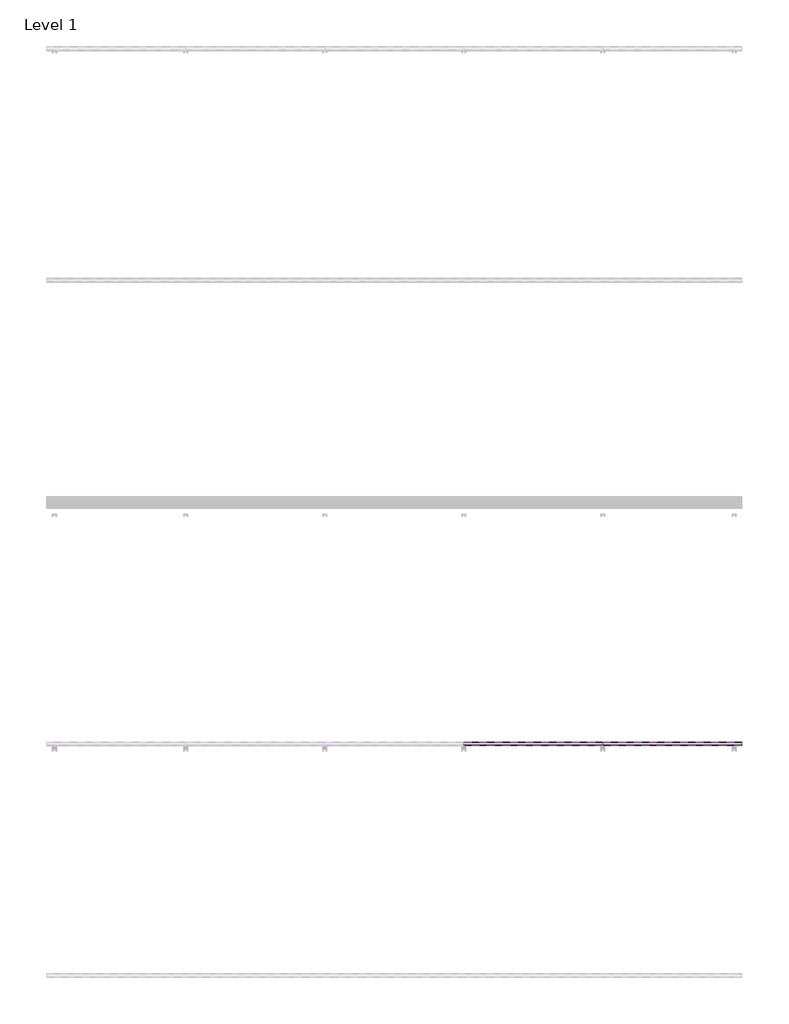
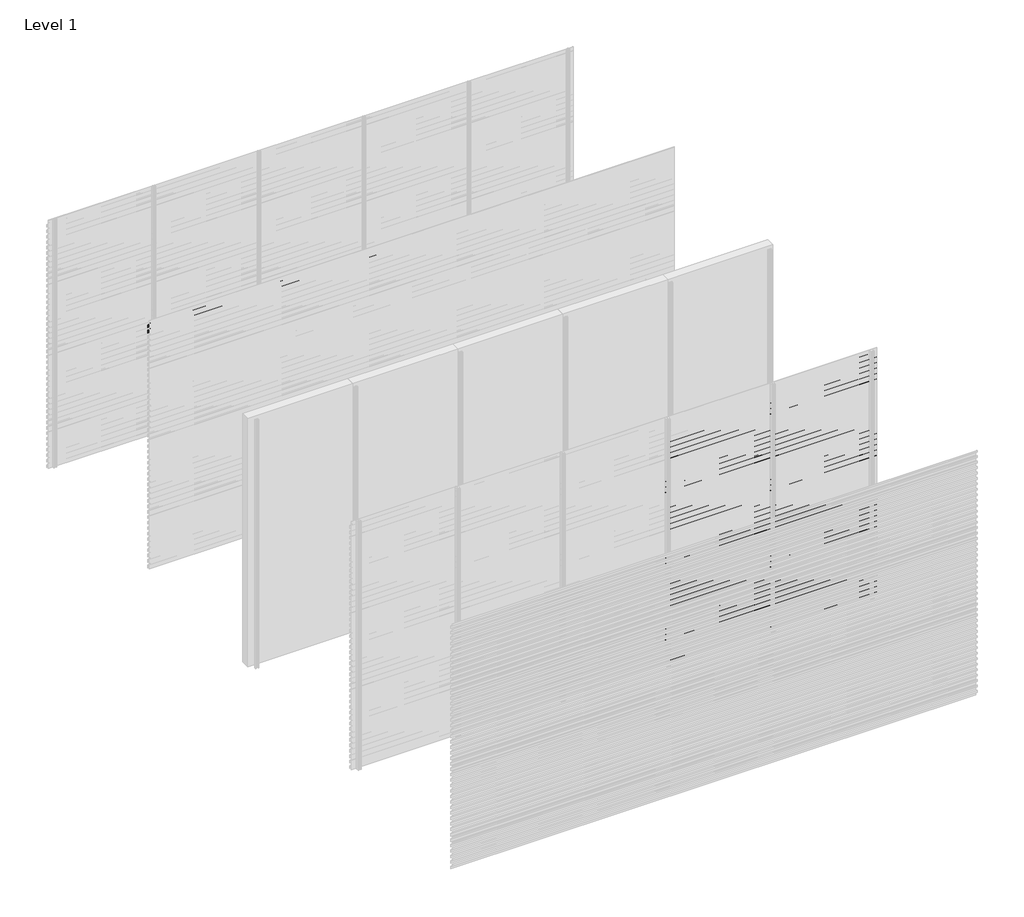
# One storey, part 27 of 33: 88 proxies.
"""IFC4 building model written with IfcOpenShell, lengths in millimetres."""

from ifc_helpers import new_model, si_unit, frame, origin, place, context, project, spatial, polyline, outline, extrude, element, save

model = new_model("IFC4")

# Units and contexts
model_context = context("Model", 3, world=origin())
ifc_project = project(units=[si_unit("LENGTHUNIT", "METRE", prefix="MILLI")], contexts=[model_context])

# Site, building, storey
site = spatial("IfcSite", under=ifc_project)
building = spatial("IfcBuilding", under=site)
storey = spatial("IfcBuildingStorey", under=building, Name="Level 1", Elevation=0.0)

# Proxies
placement = place(None, origin())
element("IfcBuildingElementProxy", 1, Name="Wall Sweeps", at=placement, inside=storey, context=model_context, shape_type="SweptSolid", body=[
    extrude(outline(polyline([(-7967.0, 2930.0), (-7967.0, 2897.0), (-7968.25, 2897.7216933), (-7968.25, 2929.2872415), (-7998.0, 2950.0588647), (-7998.0, 2970.0), (-7996.75, 2970.0), (-7996.75, 2950.7716232), (-7967.0, 2930.0)])), frame((0.0, 0.0, 0.0), z_axis=(1.0, 0.0, 0.0), x_axis=(0.0, 1.0, 0.0)), (0.0, 0.0, 1.0), 6000.0),
])
element("IfcBuildingElementProxy", 2, Name="Wall Sweeps", at=placement, inside=storey, context=model_context, shape_type="SweptSolid", body=[
    extrude(outline(polyline([(-7967.0, 2864.0), (-7967.0, 2831.0), (-7968.25, 2831.7216933), (-7968.25, 2863.2872415), (-7998.0, 2884.0588647), (-7998.0, 2904.0), (-7996.75, 2904.0), (-7996.75, 2884.7716232), (-7967.0, 2864.0)])), frame((0.0, 0.0, 0.0), z_axis=(1.0, 0.0, 0.0), x_axis=(0.0, 1.0, 0.0)), (0.0, 0.0, 1.0), 6000.0),
])
element("IfcBuildingElementProxy", 3, Name="Wall Sweeps", at=placement, inside=storey, context=model_context, shape_type="SweptSolid", body=[
    extrude(outline(polyline([(-11967.0, 2666.0), (-11967.0, 2633.0), (-11968.25, 2633.7216933), (-11968.25, 2665.2872415), (-11998.0, 2686.0588647), (-11998.0, 2706.0), (-11996.75, 2706.0), (-11996.75, 2686.7716232), (-11967.0, 2666.0)])), frame((3600.0, 0.0, 0.0), z_axis=(1.0, 0.0, 0.0), x_axis=(0.0, 1.0, 0.0)), (0.0, 0.0, 1.0), 1200.0),
])
element("IfcBuildingElementProxy", 4, Name="Wall Sweeps", at=placement, inside=storey, context=model_context, shape_type="SweptSolid", body=[
    extrude(outline(polyline([(-11967.0, 2600.0), (-11967.0, 2567.0), (-11968.25, 2567.7216933), (-11968.25, 2599.2872415), (-11998.0, 2620.0588647), (-11998.0, 2640.0), (-11996.75, 2640.0), (-11996.75, 2620.7716232), (-11967.0, 2600.0)])), frame((3600.0, 0.0, 0.0), z_axis=(1.0, 0.0, 0.0), x_axis=(0.0, 1.0, 0.0)), (0.0, 0.0, 1.0), 1200.0),
])
element("IfcBuildingElementProxy", 5, Name="Wall Sweeps", at=placement, inside=storey, context=model_context, shape_type="SweptSolid", body=[
    extrude(outline(polyline([(-11967.0, 2534.0), (-11967.0, 2501.0), (-11968.25, 2501.7216933), (-11968.25, 2533.2872415), (-11998.0, 2554.0588647), (-11998.0, 2574.0), (-11996.75, 2574.0), (-11996.75, 2554.7716232), (-11967.0, 2534.0)])), frame((3600.0, 0.0, 0.0), z_axis=(1.0, 0.0, 0.0), x_axis=(0.0, 1.0, 0.0)), (0.0, 0.0, 1.0), 1200.0),
])
element("IfcBuildingElementProxy", 6, Name="Wall Sweeps", at=placement, inside=storey, context=model_context, shape_type="SweptSolid", body=[
    extrude(outline(polyline([(-11967.0, 2468.0), (-11967.0, 2435.0), (-11968.25, 2435.7216933), (-11968.25, 2467.2872415), (-11998.0, 2488.0588647), (-11998.0, 2508.0), (-11996.75, 2508.0), (-11996.75, 2488.7716232), (-11967.0, 2468.0)])), frame((3600.0, 0.0, 0.0), z_axis=(1.0, 0.0, 0.0), x_axis=(0.0, 1.0, 0.0)), (0.0, 0.0, 1.0), 1200.0),
])
element("IfcBuildingElementProxy", 7, Name="Wall Sweeps", at=placement, inside=storey, context=model_context, shape_type="SweptSolid", body=[
    extrude(outline(polyline([(-11967.0, 2402.0), (-11967.0, 2369.0), (-11968.25, 2369.7216933), (-11968.25, 2401.2872415), (-11998.0, 2422.0588647), (-11998.0, 2442.0), (-11996.75, 2442.0), (-11996.75, 2422.7716232), (-11967.0, 2402.0)])), frame((3600.0, 0.0, 0.0), z_axis=(1.0, 0.0, 0.0), x_axis=(0.0, 1.0, 0.0)), (0.0, 0.0, 1.0), 1200.0),
])
element("IfcBuildingElementProxy", 8, Name="Wall Sweeps", at=placement, inside=storey, context=model_context, shape_type="SweptSolid", body=[
    extrude(outline(polyline([(-11967.0, 2336.0), (-11967.0, 2303.0), (-11968.25, 2303.7216933), (-11968.25, 2335.2872415), (-11998.0, 2356.0588647), (-11998.0, 2376.0), (-11996.75, 2376.0), (-11996.75, 2356.7716232), (-11967.0, 2336.0)])), frame((3600.0, 0.0, 0.0), z_axis=(1.0, 0.0, 0.0), x_axis=(0.0, 1.0, 0.0)), (0.0, 0.0, 1.0), 1200.0),
])
element("IfcBuildingElementProxy", 9, Name="Wall Sweeps", at=placement, inside=storey, context=model_context, shape_type="SweptSolid", body=[
    extrude(outline(polyline([(-11967.0, 2270.0), (-11967.0, 2237.0), (-11968.25, 2237.7216933), (-11968.25, 2269.2872415), (-11998.0, 2290.0588647), (-11998.0, 2310.0), (-11996.75, 2310.0), (-11996.75, 2290.7716232), (-11967.0, 2270.0)])), frame((3600.0, 0.0, 0.0), z_axis=(1.0, 0.0, 0.0), x_axis=(0.0, 1.0, 0.0)), (0.0, 0.0, 1.0), 1200.0),
])
element("IfcBuildingElementProxy", 10, Name="Wall Sweeps", at=placement, inside=storey, context=model_context, shape_type="SweptSolid", body=[
    extrude(outline(polyline([(-11967.0, 2204.0), (-11967.0, 2171.0), (-11968.25, 2171.7216933), (-11968.25, 2203.2872415), (-11998.0, 2224.0588647), (-11998.0, 2244.0), (-11996.75, 2244.0), (-11996.75, 2224.7716232), (-11967.0, 2204.0)])), frame((3600.0, 0.0, 0.0), z_axis=(1.0, 0.0, 0.0), x_axis=(0.0, 1.0, 0.0)), (0.0, 0.0, 1.0), 1200.0),
])
element("IfcBuildingElementProxy", 11, Name="Wall Sweeps", at=placement, inside=storey, context=model_context, shape_type="SweptSolid", body=[
    extrude(outline(polyline([(-11967.0, 2138.0), (-11967.0, 2105.0), (-11968.25, 2105.7216933), (-11968.25, 2137.2872415), (-11998.0, 2158.0588647), (-11998.0, 2178.0), (-11996.75, 2178.0), (-11996.75, 2158.7716232), (-11967.0, 2138.0)])), frame((3600.0, 0.0, 0.0), z_axis=(1.0, 0.0, 0.0), x_axis=(0.0, 1.0, 0.0)), (0.0, 0.0, 1.0), 1200.0),
])
element("IfcBuildingElementProxy", 12, Name="Wall Sweeps", at=placement, inside=storey, context=model_context, shape_type="SweptSolid", body=[
    extrude(outline(polyline([(-11967.0, 2072.0), (-11967.0, 2039.0), (-11968.25, 2039.7216933), (-11968.25, 2071.2872415), (-11998.0, 2092.0588647), (-11998.0, 2112.0), (-11996.75, 2112.0), (-11996.75, 2092.7716232), (-11967.0, 2072.0)])), frame((3600.0, 0.0, 0.0), z_axis=(1.0, 0.0, 0.0), x_axis=(0.0, 1.0, 0.0)), (0.0, 0.0, 1.0), 1200.0),
])
element("IfcBuildingElementProxy", 13, Name="Wall Sweeps", at=placement, inside=storey, context=model_context, shape_type="SweptSolid", body=[
    extrude(outline(polyline([(-11967.0, 2006.0), (-11967.0, 1973.0), (-11968.25, 1973.7216933), (-11968.25, 2005.2872415), (-11998.0, 2026.0588647), (-11998.0, 2046.0), (-11996.75, 2046.0), (-11996.75, 2026.7716232), (-11967.0, 2006.0)])), frame((3600.0, 0.0, 0.0), z_axis=(1.0, 0.0, 0.0), x_axis=(0.0, 1.0, 0.0)), (0.0, 0.0, 1.0), 1200.0),
])
element("IfcBuildingElementProxy", 14, Name="Wall Sweeps", at=placement, inside=storey, context=model_context, shape_type="SweptSolid", body=[
    extrude(outline(polyline([(-11967.0, 1940.0), (-11967.0, 1907.0), (-11968.25, 1907.7216933), (-11968.25, 1939.2872415), (-11998.0, 1960.0588647), (-11998.0, 1980.0), (-11996.75, 1980.0), (-11996.75, 1960.7716232), (-11967.0, 1940.0)])), frame((3600.0, 0.0, 0.0), z_axis=(1.0, 0.0, 0.0), x_axis=(0.0, 1.0, 0.0)), (0.0, 0.0, 1.0), 1200.0),
])
element("IfcBuildingElementProxy", 15, Name="Wall Sweeps", at=placement, inside=storey, context=model_context, shape_type="SweptSolid", body=[
    extrude(outline(polyline([(-11967.0, 1874.0), (-11967.0, 1841.0), (-11968.25, 1841.7216933), (-11968.25, 1873.2872415), (-11998.0, 1894.0588647), (-11998.0, 1914.0), (-11996.75, 1914.0), (-11996.75, 1894.7716232), (-11967.0, 1874.0)])), frame((3600.0, 0.0, 0.0), z_axis=(1.0, 0.0, 0.0), x_axis=(0.0, 1.0, 0.0)), (0.0, 0.0, 1.0), 1200.0),
])
element("IfcBuildingElementProxy", 16, Name="Wall Sweeps", at=placement, inside=storey, context=model_context, shape_type="SweptSolid", body=[
    extrude(outline(polyline([(-11967.0, 1808.0), (-11967.0, 1775.0), (-11968.25, 1775.7216933), (-11968.25, 1807.2872415), (-11998.0, 1828.0588647), (-11998.0, 1848.0), (-11996.75, 1848.0), (-11996.75, 1828.7716232), (-11967.0, 1808.0)])), frame((3600.0, 0.0, 0.0), z_axis=(1.0, 0.0, 0.0), x_axis=(0.0, 1.0, 0.0)), (0.0, 0.0, 1.0), 1200.0),
])
element("IfcBuildingElementProxy", 17, Name="Wall Sweeps", at=placement, inside=storey, context=model_context, shape_type="SweptSolid", body=[
    extrude(outline(polyline([(-11967.0, 1742.0), (-11967.0, 1709.0), (-11968.25, 1709.7216933), (-11968.25, 1741.2872415), (-11998.0, 1762.0588647), (-11998.0, 1782.0), (-11996.75, 1782.0), (-11996.75, 1762.7716232), (-11967.0, 1742.0)])), frame((3600.0, 0.0, 0.0), z_axis=(1.0, 0.0, 0.0), x_axis=(0.0, 1.0, 0.0)), (0.0, 0.0, 1.0), 1200.0),
])
element("IfcBuildingElementProxy", 18, Name="Wall Sweeps", at=placement, inside=storey, context=model_context, shape_type="SweptSolid", body=[
    extrude(outline(polyline([(-11967.0, 1676.0), (-11967.0, 1643.0), (-11968.25, 1643.7216933), (-11968.25, 1675.2872415), (-11998.0, 1696.0588647), (-11998.0, 1716.0), (-11996.75, 1716.0), (-11996.75, 1696.7716232), (-11967.0, 1676.0)])), frame((3600.0, 0.0, 0.0), z_axis=(1.0, 0.0, 0.0), x_axis=(0.0, 1.0, 0.0)), (0.0, 0.0, 1.0), 1200.0),
])
element("IfcBuildingElementProxy", 19, Name="Wall Sweeps", at=placement, inside=storey, context=model_context, shape_type="SweptSolid", body=[
    extrude(outline(polyline([(-11967.0, 1610.0), (-11967.0, 1577.0), (-11968.25, 1577.7216933), (-11968.25, 1609.2872415), (-11998.0, 1630.0588647), (-11998.0, 1650.0), (-11996.75, 1650.0), (-11996.75, 1630.7716232), (-11967.0, 1610.0)])), frame((3600.0, 0.0, 0.0), z_axis=(1.0, 0.0, 0.0), x_axis=(0.0, 1.0, 0.0)), (0.0, 0.0, 1.0), 1200.0),
])
element("IfcBuildingElementProxy", 20, Name="Wall Sweeps", at=placement, inside=storey, context=model_context, shape_type="SweptSolid", body=[
    extrude(outline(polyline([(-11967.0, 1544.0), (-11967.0, 1511.0), (-11968.25, 1511.7216933), (-11968.25, 1543.2872415), (-11998.0, 1564.0588647), (-11998.0, 1584.0), (-11996.75, 1584.0), (-11996.75, 1564.7716232), (-11967.0, 1544.0)])), frame((3600.0, 0.0, 0.0), z_axis=(1.0, 0.0, 0.0), x_axis=(0.0, 1.0, 0.0)), (0.0, 0.0, 1.0), 1200.0),
])
element("IfcBuildingElementProxy", 21, Name="Wall Sweeps", at=placement, inside=storey, context=model_context, shape_type="SweptSolid", body=[
    extrude(outline(polyline([(-11967.0, 1478.0), (-11967.0, 1445.0), (-11968.25, 1445.7216933), (-11968.25, 1477.2872415), (-11998.0, 1498.0588647), (-11998.0, 1518.0), (-11996.75, 1518.0), (-11996.75, 1498.7716232), (-11967.0, 1478.0)])), frame((3600.0, 0.0, 0.0), z_axis=(1.0, 0.0, 0.0), x_axis=(0.0, 1.0, 0.0)), (0.0, 0.0, 1.0), 1200.0),
])
element("IfcBuildingElementProxy", 22, Name="Wall Sweeps", at=placement, inside=storey, context=model_context, shape_type="SweptSolid", body=[
    extrude(outline(polyline([(-11967.0, 1412.0), (-11967.0, 1379.0), (-11968.25, 1379.7216933), (-11968.25, 1411.2872415), (-11998.0, 1432.0588647), (-11998.0, 1452.0), (-11996.75, 1452.0), (-11996.75, 1432.7716232), (-11967.0, 1412.0)])), frame((3600.0, 0.0, 0.0), z_axis=(1.0, 0.0, 0.0), x_axis=(0.0, 1.0, 0.0)), (0.0, 0.0, 1.0), 1200.0),
])
element("IfcBuildingElementProxy", 23, Name="Wall Sweeps", at=placement, inside=storey, context=model_context, shape_type="SweptSolid", body=[
    extrude(outline(polyline([(-11967.0, 1346.0), (-11967.0, 1313.0), (-11968.25, 1313.7216933), (-11968.25, 1345.2872415), (-11998.0, 1366.0588647), (-11998.0, 1386.0), (-11996.75, 1386.0), (-11996.75, 1366.7716232), (-11967.0, 1346.0)])), frame((3600.0, 0.0, 0.0), z_axis=(1.0, 0.0, 0.0), x_axis=(0.0, 1.0, 0.0)), (0.0, 0.0, 1.0), 1200.0),
])
element("IfcBuildingElementProxy", 24, Name="Wall Sweeps", at=placement, inside=storey, context=model_context, shape_type="SweptSolid", body=[
    extrude(outline(polyline([(-11967.0, 1280.0), (-11967.0, 1247.0), (-11968.25, 1247.7216933), (-11968.25, 1279.2872415), (-11998.0, 1300.0588647), (-11998.0, 1320.0), (-11996.75, 1320.0), (-11996.75, 1300.7716232), (-11967.0, 1280.0)])), frame((3600.0, 0.0, 0.0), z_axis=(1.0, 0.0, 0.0), x_axis=(0.0, 1.0, 0.0)), (0.0, 0.0, 1.0), 1200.0),
])
element("IfcBuildingElementProxy", 25, Name="Wall Sweeps", at=placement, inside=storey, context=model_context, shape_type="SweptSolid", body=[
    extrude(outline(polyline([(-11967.0, 1214.0), (-11967.0, 1181.0), (-11968.25, 1181.7216933), (-11968.25, 1213.2872415), (-11998.0, 1234.0588647), (-11998.0, 1254.0), (-11996.75, 1254.0), (-11996.75, 1234.7716232), (-11967.0, 1214.0)])), frame((3600.0, 0.0, 0.0), z_axis=(1.0, 0.0, 0.0), x_axis=(0.0, 1.0, 0.0)), (0.0, 0.0, 1.0), 1200.0),
])
element("IfcBuildingElementProxy", 26, Name="Wall Sweeps", at=placement, inside=storey, context=model_context, shape_type="SweptSolid", body=[
    extrude(outline(polyline([(-11967.0, 1148.0), (-11967.0, 1115.0), (-11968.25, 1115.7216933), (-11968.25, 1147.2872415), (-11998.0, 1168.0588647), (-11998.0, 1188.0), (-11996.75, 1188.0), (-11996.75, 1168.7716232), (-11967.0, 1148.0)])), frame((3600.0, 0.0, 0.0), z_axis=(1.0, 0.0, 0.0), x_axis=(0.0, 1.0, 0.0)), (0.0, 0.0, 1.0), 1200.0),
])
element("IfcBuildingElementProxy", 27, Name="Wall Sweeps", at=placement, inside=storey, context=model_context, shape_type="SweptSolid", body=[
    extrude(outline(polyline([(-11967.0, 1082.0), (-11967.0, 1049.0), (-11968.25, 1049.7216933), (-11968.25, 1081.2872415), (-11998.0, 1102.0588647), (-11998.0, 1122.0), (-11996.75, 1122.0), (-11996.75, 1102.7716232), (-11967.0, 1082.0)])), frame((3600.0, 0.0, 0.0), z_axis=(1.0, 0.0, 0.0), x_axis=(0.0, 1.0, 0.0)), (0.0, 0.0, 1.0), 1200.0),
])
element("IfcBuildingElementProxy", 28, Name="Wall Sweeps", at=placement, inside=storey, context=model_context, shape_type="SweptSolid", body=[
    extrude(outline(polyline([(-11967.0, 1016.0), (-11967.0, 983.0), (-11968.25, 983.7216933), (-11968.25, 1015.2872415), (-11998.0, 1036.0588647), (-11998.0, 1056.0), (-11996.75, 1056.0), (-11996.75, 1036.7716232), (-11967.0, 1016.0)])), frame((3600.0, 0.0, 0.0), z_axis=(1.0, 0.0, 0.0), x_axis=(0.0, 1.0, 0.0)), (0.0, 0.0, 1.0), 1200.0),
])
element("IfcBuildingElementProxy", 29, Name="Wall Sweeps", at=placement, inside=storey, context=model_context, shape_type="SweptSolid", body=[
    extrude(outline(polyline([(-11967.0, 950.0), (-11967.0, 917.0), (-11968.25, 917.7216933), (-11968.25, 949.2872415), (-11998.0, 970.0588647), (-11998.0, 990.0), (-11996.75, 990.0), (-11996.75, 970.7716232), (-11967.0, 950.0)])), frame((3600.0, 0.0, 0.0), z_axis=(1.0, 0.0, 0.0), x_axis=(0.0, 1.0, 0.0)), (0.0, 0.0, 1.0), 1200.0),
])
element("IfcBuildingElementProxy", 30, Name="Wall Sweeps", at=placement, inside=storey, context=model_context, shape_type="SweptSolid", body=[
    extrude(outline(polyline([(-11967.0, 884.0), (-11967.0, 851.0), (-11968.25, 851.7216933), (-11968.25, 883.2872415), (-11998.0, 904.0588647), (-11998.0, 924.0), (-11996.75, 924.0), (-11996.75, 904.7716232), (-11967.0, 884.0)])), frame((3600.0, 0.0, 0.0), z_axis=(1.0, 0.0, 0.0), x_axis=(0.0, 1.0, 0.0)), (0.0, 0.0, 1.0), 1200.0),
])
element("IfcBuildingElementProxy", 31, Name="Wall Sweeps", at=placement, inside=storey, context=model_context, shape_type="SweptSolid", body=[
    extrude(outline(polyline([(-11967.0, 818.0), (-11967.0, 785.0), (-11968.25, 785.7216933), (-11968.25, 817.2872415), (-11998.0, 838.0588647), (-11998.0, 858.0), (-11996.75, 858.0), (-11996.75, 838.7716232), (-11967.0, 818.0)])), frame((3600.0, 0.0, 0.0), z_axis=(1.0, 0.0, 0.0), x_axis=(0.0, 1.0, 0.0)), (0.0, 0.0, 1.0), 1200.0),
])
element("IfcBuildingElementProxy", 32, Name="Wall Sweeps", at=placement, inside=storey, context=model_context, shape_type="SweptSolid", body=[
    extrude(outline(polyline([(-11967.0, 752.0), (-11967.0, 719.0), (-11968.25, 719.7216933), (-11968.25, 751.2872415), (-11998.0, 772.0588647), (-11998.0, 792.0), (-11996.75, 792.0), (-11996.75, 772.7716232), (-11967.0, 752.0)])), frame((3600.0, 0.0, 0.0), z_axis=(1.0, 0.0, 0.0), x_axis=(0.0, 1.0, 0.0)), (0.0, 0.0, 1.0), 1200.0),
])
element("IfcBuildingElementProxy", 33, Name="Wall Sweeps", at=placement, inside=storey, context=model_context, shape_type="SweptSolid", body=[
    extrude(outline(polyline([(-11967.0, 686.0), (-11967.0, 653.0), (-11968.25, 653.7216933), (-11968.25, 685.2872415), (-11998.0, 706.0588647), (-11998.0, 726.0), (-11996.75, 726.0), (-11996.75, 706.7716232), (-11967.0, 686.0)])), frame((3600.0, 0.0, 0.0), z_axis=(1.0, 0.0, 0.0), x_axis=(0.0, 1.0, 0.0)), (0.0, 0.0, 1.0), 1200.0),
])
element("IfcBuildingElementProxy", 34, Name="Wall Sweeps", at=placement, inside=storey, context=model_context, shape_type="SweptSolid", body=[
    extrude(outline(polyline([(-11967.0, 620.0), (-11967.0, 587.0), (-11968.25, 587.7216933), (-11968.25, 619.2872415), (-11998.0, 640.0588647), (-11998.0, 660.0), (-11996.75, 660.0), (-11996.75, 640.7716232), (-11967.0, 620.0)])), frame((3600.0, 0.0, 0.0), z_axis=(1.0, 0.0, 0.0), x_axis=(0.0, 1.0, 0.0)), (0.0, 0.0, 1.0), 1200.0),
])
element("IfcBuildingElementProxy", 35, Name="Wall Sweeps", at=placement, inside=storey, context=model_context, shape_type="SweptSolid", body=[
    extrude(outline(polyline([(-11967.0, 554.0), (-11967.0, 521.0), (-11968.25, 521.7216933), (-11968.25, 553.2872415), (-11998.0, 574.0588647), (-11998.0, 594.0), (-11996.75, 594.0), (-11996.75, 574.7716232), (-11967.0, 554.0)])), frame((3600.0, 0.0, 0.0), z_axis=(1.0, 0.0, 0.0), x_axis=(0.0, 1.0, 0.0)), (0.0, 0.0, 1.0), 1200.0),
])
element("IfcBuildingElementProxy", 36, Name="Wall Sweeps", at=placement, inside=storey, context=model_context, shape_type="SweptSolid", body=[
    extrude(outline(polyline([(-11967.0, 488.0), (-11967.0, 455.0), (-11968.25, 455.7216933), (-11968.25, 487.2872415), (-11998.0, 508.0588647), (-11998.0, 528.0), (-11996.75, 528.0), (-11996.75, 508.7716232), (-11967.0, 488.0)])), frame((3600.0, 0.0, 0.0), z_axis=(1.0, 0.0, 0.0), x_axis=(0.0, 1.0, 0.0)), (0.0, 0.0, 1.0), 1200.0),
])
element("IfcBuildingElementProxy", 37, Name="Wall Sweeps", at=placement, inside=storey, context=model_context, shape_type="SweptSolid", body=[
    extrude(outline(polyline([(-11967.0, 422.0), (-11967.0, 389.0), (-11968.25, 389.7216933), (-11968.25, 421.2872415), (-11998.0, 442.0588647), (-11998.0, 462.0), (-11996.75, 462.0), (-11996.75, 442.7716232), (-11967.0, 422.0)])), frame((3600.0, 0.0, 0.0), z_axis=(1.0, 0.0, 0.0), x_axis=(0.0, 1.0, 0.0)), (0.0, 0.0, 1.0), 1200.0),
])
element("IfcBuildingElementProxy", 38, Name="Wall Sweeps", at=placement, inside=storey, context=model_context, shape_type="SweptSolid", body=[
    extrude(outline(polyline([(-11967.0, 356.0), (-11967.0, 323.0), (-11968.25, 323.7216933), (-11968.25, 355.2872415), (-11998.0, 376.0588647), (-11998.0, 396.0), (-11996.75, 396.0), (-11996.75, 376.7716232), (-11967.0, 356.0)])), frame((3600.0, 0.0, 0.0), z_axis=(1.0, 0.0, 0.0), x_axis=(0.0, 1.0, 0.0)), (0.0, 0.0, 1.0), 1200.0),
])
element("IfcBuildingElementProxy", 39, Name="Wall Sweeps", at=placement, inside=storey, context=model_context, shape_type="SweptSolid", body=[
    extrude(outline(polyline([(-11967.0, 290.0), (-11967.0, 257.0), (-11968.25, 257.7216933), (-11968.25, 289.2872415), (-11998.0, 310.0588647), (-11998.0, 330.0), (-11996.75, 330.0), (-11996.75, 310.7716232), (-11967.0, 290.0)])), frame((3600.0, 0.0, 0.0), z_axis=(1.0, 0.0, 0.0), x_axis=(0.0, 1.0, 0.0)), (0.0, 0.0, 1.0), 1200.0),
])
element("IfcBuildingElementProxy", 40, Name="Wall Sweeps", at=placement, inside=storey, context=model_context, shape_type="SweptSolid", body=[
    extrude(outline(polyline([(-11967.0, 224.0), (-11967.0, 191.0), (-11968.25, 191.7216933), (-11968.25, 223.2872415), (-11998.0, 244.0588647), (-11998.0, 264.0), (-11996.75, 264.0), (-11996.75, 244.7716232), (-11967.0, 224.0)])), frame((3600.0, 0.0, 0.0), z_axis=(1.0, 0.0, 0.0), x_axis=(0.0, 1.0, 0.0)), (0.0, 0.0, 1.0), 1200.0),
])
element("IfcBuildingElementProxy", 41, Name="Wall Sweeps", at=placement, inside=storey, context=model_context, shape_type="SweptSolid", body=[
    extrude(outline(polyline([(-11967.0, 158.0), (-11967.0, 125.0), (-11968.25, 125.7216933), (-11968.25, 157.2872415), (-11998.0, 178.0588647), (-11998.0, 198.0), (-11996.75, 198.0), (-11996.75, 178.7716232), (-11967.0, 158.0)])), frame((3600.0, 0.0, 0.0), z_axis=(1.0, 0.0, 0.0), x_axis=(0.0, 1.0, 0.0)), (0.0, 0.0, 1.0), 1200.0),
])
element("IfcBuildingElementProxy", 42, Name="Wall Sweeps", at=placement, inside=storey, context=model_context, shape_type="SweptSolid", body=[
    extrude(outline(polyline([(-11967.0, 92.0), (-11967.0, 59.0), (-11968.25, 59.7216933), (-11968.25, 91.2872415), (-11998.0, 112.0588647), (-11998.0, 132.0), (-11996.75, 132.0), (-11996.75, 112.7716232), (-11967.0, 92.0)])), frame((3600.0, 0.0, 0.0), z_axis=(1.0, 0.0, 0.0), x_axis=(0.0, 1.0, 0.0)), (0.0, 0.0, 1.0), 1200.0),
])
element("IfcBuildingElementProxy", 43, Name="Wall Sweeps", at=placement, inside=storey, context=model_context, shape_type="SweptSolid", body=[
    extrude(outline(polyline([(-11967.0, 26.0), (-11967.0, -7.0), (-11968.25, -6.2783067), (-11968.25, 25.2872415), (-11998.0, 46.0588647), (-11998.0, 66.0), (-11996.75, 66.0), (-11996.75, 46.7716232), (-11967.0, 26.0)])), frame((3600.0, 0.0, 0.0), z_axis=(1.0, 0.0, 0.0), x_axis=(0.0, 1.0, 0.0)), (0.0, 0.0, 1.0), 1200.0),
])
element("IfcBuildingElementProxy", 44, Name="Wall Sweeps", at=placement, inside=storey, context=model_context, shape_type="SweptSolid", body=[
    extrude(outline(polyline([(-11967.0, 2930.0), (-11967.0, 2897.0), (-11968.25, 2897.7216933), (-11968.25, 2929.2872415), (-11998.0, 2950.0588647), (-11998.0, 2970.0), (-11996.75, 2970.0), (-11996.75, 2950.7716232), (-11967.0, 2930.0)])), frame((4800.0, 0.0, 0.0), z_axis=(1.0, 0.0, 0.0), x_axis=(0.0, 1.0, 0.0)), (0.0, 0.0, 1.0), 1200.0),
])
element("IfcBuildingElementProxy", 45, Name="Wall Sweeps", at=placement, inside=storey, context=model_context, shape_type="SweptSolid", body=[
    extrude(outline(polyline([(-11967.0, 2864.0), (-11967.0, 2831.0), (-11968.25, 2831.7216933), (-11968.25, 2863.2872415), (-11998.0, 2884.0588647), (-11998.0, 2904.0), (-11996.75, 2904.0), (-11996.75, 2884.7716232), (-11967.0, 2864.0)])), frame((4800.0, 0.0, 0.0), z_axis=(1.0, 0.0, 0.0), x_axis=(0.0, 1.0, 0.0)), (0.0, 0.0, 1.0), 1200.0),
])
element("IfcBuildingElementProxy", 46, Name="Wall Sweeps", at=placement, inside=storey, context=model_context, shape_type="SweptSolid", body=[
    extrude(outline(polyline([(-11967.0, 2798.0), (-11967.0, 2765.0), (-11968.25, 2765.7216933), (-11968.25, 2797.2872415), (-11998.0, 2818.0588647), (-11998.0, 2838.0), (-11996.75, 2838.0), (-11996.75, 2818.7716232), (-11967.0, 2798.0)])), frame((4800.0, 0.0, 0.0), z_axis=(1.0, 0.0, 0.0), x_axis=(0.0, 1.0, 0.0)), (0.0, 0.0, 1.0), 1200.0),
])
element("IfcBuildingElementProxy", 47, Name="Wall Sweeps", at=placement, inside=storey, context=model_context, shape_type="SweptSolid", body=[
    extrude(outline(polyline([(-11967.0, 2732.0), (-11967.0, 2699.0), (-11968.25, 2699.7216933), (-11968.25, 2731.2872415), (-11998.0, 2752.0588647), (-11998.0, 2772.0), (-11996.75, 2772.0), (-11996.75, 2752.7716232), (-11967.0, 2732.0)])), frame((4800.0, 0.0, 0.0), z_axis=(1.0, 0.0, 0.0), x_axis=(0.0, 1.0, 0.0)), (0.0, 0.0, 1.0), 1200.0),
])
element("IfcBuildingElementProxy", 48, Name="Wall Sweeps", at=placement, inside=storey, context=model_context, shape_type="SweptSolid", body=[
    extrude(outline(polyline([(-11967.0, 2666.0), (-11967.0, 2633.0), (-11968.25, 2633.7216933), (-11968.25, 2665.2872415), (-11998.0, 2686.0588647), (-11998.0, 2706.0), (-11996.75, 2706.0), (-11996.75, 2686.7716232), (-11967.0, 2666.0)])), frame((4800.0, 0.0, 0.0), z_axis=(1.0, 0.0, 0.0), x_axis=(0.0, 1.0, 0.0)), (0.0, 0.0, 1.0), 1200.0),
])
element("IfcBuildingElementProxy", 49, Name="Wall Sweeps", at=placement, inside=storey, context=model_context, shape_type="SweptSolid", body=[
    extrude(outline(polyline([(-11967.0, 2600.0), (-11967.0, 2567.0), (-11968.25, 2567.7216933), (-11968.25, 2599.2872415), (-11998.0, 2620.0588647), (-11998.0, 2640.0), (-11996.75, 2640.0), (-11996.75, 2620.7716232), (-11967.0, 2600.0)])), frame((4800.0, 0.0, 0.0), z_axis=(1.0, 0.0, 0.0), x_axis=(0.0, 1.0, 0.0)), (0.0, 0.0, 1.0), 1200.0),
])
element("IfcBuildingElementProxy", 50, Name="Wall Sweeps", at=placement, inside=storey, context=model_context, shape_type="SweptSolid", body=[
    extrude(outline(polyline([(-11967.0, 2534.0), (-11967.0, 2501.0), (-11968.25, 2501.7216933), (-11968.25, 2533.2872415), (-11998.0, 2554.0588647), (-11998.0, 2574.0), (-11996.75, 2574.0), (-11996.75, 2554.7716232), (-11967.0, 2534.0)])), frame((4800.0, 0.0, 0.0), z_axis=(1.0, 0.0, 0.0), x_axis=(0.0, 1.0, 0.0)), (0.0, 0.0, 1.0), 1200.0),
])
element("IfcBuildingElementProxy", 51, Name="Wall Sweeps", at=placement, inside=storey, context=model_context, shape_type="SweptSolid", body=[
    extrude(outline(polyline([(-11967.0, 2468.0), (-11967.0, 2435.0), (-11968.25, 2435.7216933), (-11968.25, 2467.2872415), (-11998.0, 2488.0588647), (-11998.0, 2508.0), (-11996.75, 2508.0), (-11996.75, 2488.7716232), (-11967.0, 2468.0)])), frame((4800.0, 0.0, 0.0), z_axis=(1.0, 0.0, 0.0), x_axis=(0.0, 1.0, 0.0)), (0.0, 0.0, 1.0), 1200.0),
])
element("IfcBuildingElementProxy", 52, Name="Wall Sweeps", at=placement, inside=storey, context=model_context, shape_type="SweptSolid", body=[
    extrude(outline(polyline([(-11967.0, 2402.0), (-11967.0, 2369.0), (-11968.25, 2369.7216933), (-11968.25, 2401.2872415), (-11998.0, 2422.0588647), (-11998.0, 2442.0), (-11996.75, 2442.0), (-11996.75, 2422.7716232), (-11967.0, 2402.0)])), frame((4800.0, 0.0, 0.0), z_axis=(1.0, 0.0, 0.0), x_axis=(0.0, 1.0, 0.0)), (0.0, 0.0, 1.0), 1200.0),
])
element("IfcBuildingElementProxy", 53, Name="Wall Sweeps", at=placement, inside=storey, context=model_context, shape_type="SweptSolid", body=[
    extrude(outline(polyline([(-11967.0, 2336.0), (-11967.0, 2303.0), (-11968.25, 2303.7216933), (-11968.25, 2335.2872415), (-11998.0, 2356.0588647), (-11998.0, 2376.0), (-11996.75, 2376.0), (-11996.75, 2356.7716232), (-11967.0, 2336.0)])), frame((4800.0, 0.0, 0.0), z_axis=(1.0, 0.0, 0.0), x_axis=(0.0, 1.0, 0.0)), (0.0, 0.0, 1.0), 1200.0),
])
element("IfcBuildingElementProxy", 54, Name="Wall Sweeps", at=placement, inside=storey, context=model_context, shape_type="SweptSolid", body=[
    extrude(outline(polyline([(-11967.0, 2270.0), (-11967.0, 2237.0), (-11968.25, 2237.7216933), (-11968.25, 2269.2872415), (-11998.0, 2290.0588647), (-11998.0, 2310.0), (-11996.75, 2310.0), (-11996.75, 2290.7716232), (-11967.0, 2270.0)])), frame((4800.0, 0.0, 0.0), z_axis=(1.0, 0.0, 0.0), x_axis=(0.0, 1.0, 0.0)), (0.0, 0.0, 1.0), 1200.0),
])
element("IfcBuildingElementProxy", 55, Name="Wall Sweeps", at=placement, inside=storey, context=model_context, shape_type="SweptSolid", body=[
    extrude(outline(polyline([(-11967.0, 2204.0), (-11967.0, 2171.0), (-11968.25, 2171.7216933), (-11968.25, 2203.2872415), (-11998.0, 2224.0588647), (-11998.0, 2244.0), (-11996.75, 2244.0), (-11996.75, 2224.7716232), (-11967.0, 2204.0)])), frame((4800.0, 0.0, 0.0), z_axis=(1.0, 0.0, 0.0), x_axis=(0.0, 1.0, 0.0)), (0.0, 0.0, 1.0), 1200.0),
])
element("IfcBuildingElementProxy", 56, Name="Wall Sweeps", at=placement, inside=storey, context=model_context, shape_type="SweptSolid", body=[
    extrude(outline(polyline([(-11967.0, 2138.0), (-11967.0, 2105.0), (-11968.25, 2105.7216933), (-11968.25, 2137.2872415), (-11998.0, 2158.0588647), (-11998.0, 2178.0), (-11996.75, 2178.0), (-11996.75, 2158.7716232), (-11967.0, 2138.0)])), frame((4800.0, 0.0, 0.0), z_axis=(1.0, 0.0, 0.0), x_axis=(0.0, 1.0, 0.0)), (0.0, 0.0, 1.0), 1200.0),
])
element("IfcBuildingElementProxy", 57, Name="Wall Sweeps", at=placement, inside=storey, context=model_context, shape_type="SweptSolid", body=[
    extrude(outline(polyline([(-11967.0, 2072.0), (-11967.0, 2039.0), (-11968.25, 2039.7216933), (-11968.25, 2071.2872415), (-11998.0, 2092.0588647), (-11998.0, 2112.0), (-11996.75, 2112.0), (-11996.75, 2092.7716232), (-11967.0, 2072.0)])), frame((4800.0, 0.0, 0.0), z_axis=(1.0, 0.0, 0.0), x_axis=(0.0, 1.0, 0.0)), (0.0, 0.0, 1.0), 1200.0),
])
element("IfcBuildingElementProxy", 58, Name="Wall Sweeps", at=placement, inside=storey, context=model_context, shape_type="SweptSolid", body=[
    extrude(outline(polyline([(-11967.0, 2006.0), (-11967.0, 1973.0), (-11968.25, 1973.7216933), (-11968.25, 2005.2872415), (-11998.0, 2026.0588647), (-11998.0, 2046.0), (-11996.75, 2046.0), (-11996.75, 2026.7716232), (-11967.0, 2006.0)])), frame((4800.0, 0.0, 0.0), z_axis=(1.0, 0.0, 0.0), x_axis=(0.0, 1.0, 0.0)), (0.0, 0.0, 1.0), 1200.0),
])
element("IfcBuildingElementProxy", 59, Name="Wall Sweeps", at=placement, inside=storey, context=model_context, shape_type="SweptSolid", body=[
    extrude(outline(polyline([(-11967.0, 1940.0), (-11967.0, 1907.0), (-11968.25, 1907.7216933), (-11968.25, 1939.2872415), (-11998.0, 1960.0588647), (-11998.0, 1980.0), (-11996.75, 1980.0), (-11996.75, 1960.7716232), (-11967.0, 1940.0)])), frame((4800.0, 0.0, 0.0), z_axis=(1.0, 0.0, 0.0), x_axis=(0.0, 1.0, 0.0)), (0.0, 0.0, 1.0), 1200.0),
])
element("IfcBuildingElementProxy", 60, Name="Wall Sweeps", at=placement, inside=storey, context=model_context, shape_type="SweptSolid", body=[
    extrude(outline(polyline([(-11967.0, 1874.0), (-11967.0, 1841.0), (-11968.25, 1841.7216933), (-11968.25, 1873.2872415), (-11998.0, 1894.0588647), (-11998.0, 1914.0), (-11996.75, 1914.0), (-11996.75, 1894.7716232), (-11967.0, 1874.0)])), frame((4800.0, 0.0, 0.0), z_axis=(1.0, 0.0, 0.0), x_axis=(0.0, 1.0, 0.0)), (0.0, 0.0, 1.0), 1200.0),
])
element("IfcBuildingElementProxy", 61, Name="Wall Sweeps", at=placement, inside=storey, context=model_context, shape_type="SweptSolid", body=[
    extrude(outline(polyline([(-11967.0, 1808.0), (-11967.0, 1775.0), (-11968.25, 1775.7216933), (-11968.25, 1807.2872415), (-11998.0, 1828.0588647), (-11998.0, 1848.0), (-11996.75, 1848.0), (-11996.75, 1828.7716232), (-11967.0, 1808.0)])), frame((4800.0, 0.0, 0.0), z_axis=(1.0, 0.0, 0.0), x_axis=(0.0, 1.0, 0.0)), (0.0, 0.0, 1.0), 1200.0),
])
element("IfcBuildingElementProxy", 62, Name="Wall Sweeps", at=placement, inside=storey, context=model_context, shape_type="SweptSolid", body=[
    extrude(outline(polyline([(-11967.0, 1742.0), (-11967.0, 1709.0), (-11968.25, 1709.7216933), (-11968.25, 1741.2872415), (-11998.0, 1762.0588647), (-11998.0, 1782.0), (-11996.75, 1782.0), (-11996.75, 1762.7716232), (-11967.0, 1742.0)])), frame((4800.0, 0.0, 0.0), z_axis=(1.0, 0.0, 0.0), x_axis=(0.0, 1.0, 0.0)), (0.0, 0.0, 1.0), 1200.0),
])
element("IfcBuildingElementProxy", 63, Name="Wall Sweeps", at=placement, inside=storey, context=model_context, shape_type="SweptSolid", body=[
    extrude(outline(polyline([(-11967.0, 1676.0), (-11967.0, 1643.0), (-11968.25, 1643.7216933), (-11968.25, 1675.2872415), (-11998.0, 1696.0588647), (-11998.0, 1716.0), (-11996.75, 1716.0), (-11996.75, 1696.7716232), (-11967.0, 1676.0)])), frame((4800.0, 0.0, 0.0), z_axis=(1.0, 0.0, 0.0), x_axis=(0.0, 1.0, 0.0)), (0.0, 0.0, 1.0), 1200.0),
])
element("IfcBuildingElementProxy", 64, Name="Wall Sweeps", at=placement, inside=storey, context=model_context, shape_type="SweptSolid", body=[
    extrude(outline(polyline([(-11967.0, 1610.0), (-11967.0, 1577.0), (-11968.25, 1577.7216933), (-11968.25, 1609.2872415), (-11998.0, 1630.0588647), (-11998.0, 1650.0), (-11996.75, 1650.0), (-11996.75, 1630.7716232), (-11967.0, 1610.0)])), frame((4800.0, 0.0, 0.0), z_axis=(1.0, 0.0, 0.0), x_axis=(0.0, 1.0, 0.0)), (0.0, 0.0, 1.0), 1200.0),
])
element("IfcBuildingElementProxy", 65, Name="Wall Sweeps", at=placement, inside=storey, context=model_context, shape_type="SweptSolid", body=[
    extrude(outline(polyline([(-11967.0, 1544.0), (-11967.0, 1511.0), (-11968.25, 1511.7216933), (-11968.25, 1543.2872415), (-11998.0, 1564.0588647), (-11998.0, 1584.0), (-11996.75, 1584.0), (-11996.75, 1564.7716232), (-11967.0, 1544.0)])), frame((4800.0, 0.0, 0.0), z_axis=(1.0, 0.0, 0.0), x_axis=(0.0, 1.0, 0.0)), (0.0, 0.0, 1.0), 1200.0),
])
element("IfcBuildingElementProxy", 66, Name="Wall Sweeps", at=placement, inside=storey, context=model_context, shape_type="SweptSolid", body=[
    extrude(outline(polyline([(-11967.0, 1478.0), (-11967.0, 1445.0), (-11968.25, 1445.7216933), (-11968.25, 1477.2872415), (-11998.0, 1498.0588647), (-11998.0, 1518.0), (-11996.75, 1518.0), (-11996.75, 1498.7716232), (-11967.0, 1478.0)])), frame((4800.0, 0.0, 0.0), z_axis=(1.0, 0.0, 0.0), x_axis=(0.0, 1.0, 0.0)), (0.0, 0.0, 1.0), 1200.0),
])
element("IfcBuildingElementProxy", 67, Name="Wall Sweeps", at=placement, inside=storey, context=model_context, shape_type="SweptSolid", body=[
    extrude(outline(polyline([(-11967.0, 1412.0), (-11967.0, 1379.0), (-11968.25, 1379.7216933), (-11968.25, 1411.2872415), (-11998.0, 1432.0588647), (-11998.0, 1452.0), (-11996.75, 1452.0), (-11996.75, 1432.7716232), (-11967.0, 1412.0)])), frame((4800.0, 0.0, 0.0), z_axis=(1.0, 0.0, 0.0), x_axis=(0.0, 1.0, 0.0)), (0.0, 0.0, 1.0), 1200.0),
])
element("IfcBuildingElementProxy", 68, Name="Wall Sweeps", at=placement, inside=storey, context=model_context, shape_type="SweptSolid", body=[
    extrude(outline(polyline([(-11967.0, 1346.0), (-11967.0, 1313.0), (-11968.25, 1313.7216933), (-11968.25, 1345.2872415), (-11998.0, 1366.0588647), (-11998.0, 1386.0), (-11996.75, 1386.0), (-11996.75, 1366.7716232), (-11967.0, 1346.0)])), frame((4800.0, 0.0, 0.0), z_axis=(1.0, 0.0, 0.0), x_axis=(0.0, 1.0, 0.0)), (0.0, 0.0, 1.0), 1200.0),
])
element("IfcBuildingElementProxy", 69, Name="Wall Sweeps", at=placement, inside=storey, context=model_context, shape_type="SweptSolid", body=[
    extrude(outline(polyline([(-11967.0, 1280.0), (-11967.0, 1247.0), (-11968.25, 1247.7216933), (-11968.25, 1279.2872415), (-11998.0, 1300.0588647), (-11998.0, 1320.0), (-11996.75, 1320.0), (-11996.75, 1300.7716232), (-11967.0, 1280.0)])), frame((4800.0, 0.0, 0.0), z_axis=(1.0, 0.0, 0.0), x_axis=(0.0, 1.0, 0.0)), (0.0, 0.0, 1.0), 1200.0),
])
element("IfcBuildingElementProxy", 70, Name="Wall Sweeps", at=placement, inside=storey, context=model_context, shape_type="SweptSolid", body=[
    extrude(outline(polyline([(-11967.0, 1214.0), (-11967.0, 1181.0), (-11968.25, 1181.7216933), (-11968.25, 1213.2872415), (-11998.0, 1234.0588647), (-11998.0, 1254.0), (-11996.75, 1254.0), (-11996.75, 1234.7716232), (-11967.0, 1214.0)])), frame((4800.0, 0.0, 0.0), z_axis=(1.0, 0.0, 0.0), x_axis=(0.0, 1.0, 0.0)), (0.0, 0.0, 1.0), 1200.0),
])
element("IfcBuildingElementProxy", 71, Name="Wall Sweeps", at=placement, inside=storey, context=model_context, shape_type="SweptSolid", body=[
    extrude(outline(polyline([(-11967.0, 1148.0), (-11967.0, 1115.0), (-11968.25, 1115.7216933), (-11968.25, 1147.2872415), (-11998.0, 1168.0588647), (-11998.0, 1188.0), (-11996.75, 1188.0), (-11996.75, 1168.7716232), (-11967.0, 1148.0)])), frame((4800.0, 0.0, 0.0), z_axis=(1.0, 0.0, 0.0), x_axis=(0.0, 1.0, 0.0)), (0.0, 0.0, 1.0), 1200.0),
])
element("IfcBuildingElementProxy", 72, Name="Wall Sweeps", at=placement, inside=storey, context=model_context, shape_type="SweptSolid", body=[
    extrude(outline(polyline([(-11967.0, 1082.0), (-11967.0, 1049.0), (-11968.25, 1049.7216933), (-11968.25, 1081.2872415), (-11998.0, 1102.0588647), (-11998.0, 1122.0), (-11996.75, 1122.0), (-11996.75, 1102.7716232), (-11967.0, 1082.0)])), frame((4800.0, 0.0, 0.0), z_axis=(1.0, 0.0, 0.0), x_axis=(0.0, 1.0, 0.0)), (0.0, 0.0, 1.0), 1200.0),
])
element("IfcBuildingElementProxy", 73, Name="Wall Sweeps", at=placement, inside=storey, context=model_context, shape_type="SweptSolid", body=[
    extrude(outline(polyline([(-11967.0, 1016.0), (-11967.0, 983.0), (-11968.25, 983.7216933), (-11968.25, 1015.2872415), (-11998.0, 1036.0588647), (-11998.0, 1056.0), (-11996.75, 1056.0), (-11996.75, 1036.7716232), (-11967.0, 1016.0)])), frame((4800.0, 0.0, 0.0), z_axis=(1.0, 0.0, 0.0), x_axis=(0.0, 1.0, 0.0)), (0.0, 0.0, 1.0), 1200.0),
])
element("IfcBuildingElementProxy", 74, Name="Wall Sweeps", at=placement, inside=storey, context=model_context, shape_type="SweptSolid", body=[
    extrude(outline(polyline([(-11967.0, 950.0), (-11967.0, 917.0), (-11968.25, 917.7216933), (-11968.25, 949.2872415), (-11998.0, 970.0588647), (-11998.0, 990.0), (-11996.75, 990.0), (-11996.75, 970.7716232), (-11967.0, 950.0)])), frame((4800.0, 0.0, 0.0), z_axis=(1.0, 0.0, 0.0), x_axis=(0.0, 1.0, 0.0)), (0.0, 0.0, 1.0), 1200.0),
])
element("IfcBuildingElementProxy", 75, Name="Wall Sweeps", at=placement, inside=storey, context=model_context, shape_type="SweptSolid", body=[
    extrude(outline(polyline([(-11967.0, 884.0), (-11967.0, 851.0), (-11968.25, 851.7216933), (-11968.25, 883.2872415), (-11998.0, 904.0588647), (-11998.0, 924.0), (-11996.75, 924.0), (-11996.75, 904.7716232), (-11967.0, 884.0)])), frame((4800.0, 0.0, 0.0), z_axis=(1.0, 0.0, 0.0), x_axis=(0.0, 1.0, 0.0)), (0.0, 0.0, 1.0), 1200.0),
])
element("IfcBuildingElementProxy", 76, Name="Wall Sweeps", at=placement, inside=storey, context=model_context, shape_type="SweptSolid", body=[
    extrude(outline(polyline([(-11967.0, 818.0), (-11967.0, 785.0), (-11968.25, 785.7216933), (-11968.25, 817.2872415), (-11998.0, 838.0588647), (-11998.0, 858.0), (-11996.75, 858.0), (-11996.75, 838.7716232), (-11967.0, 818.0)])), frame((4800.0, 0.0, 0.0), z_axis=(1.0, 0.0, 0.0), x_axis=(0.0, 1.0, 0.0)), (0.0, 0.0, 1.0), 1200.0),
])
element("IfcBuildingElementProxy", 77, Name="Wall Sweeps", at=placement, inside=storey, context=model_context, shape_type="SweptSolid", body=[
    extrude(outline(polyline([(-11967.0, 752.0), (-11967.0, 719.0), (-11968.25, 719.7216933), (-11968.25, 751.2872415), (-11998.0, 772.0588647), (-11998.0, 792.0), (-11996.75, 792.0), (-11996.75, 772.7716232), (-11967.0, 752.0)])), frame((4800.0, 0.0, 0.0), z_axis=(1.0, 0.0, 0.0), x_axis=(0.0, 1.0, 0.0)), (0.0, 0.0, 1.0), 1200.0),
])
element("IfcBuildingElementProxy", 78, Name="Wall Sweeps", at=placement, inside=storey, context=model_context, shape_type="SweptSolid", body=[
    extrude(outline(polyline([(-11967.0, 686.0), (-11967.0, 653.0), (-11968.25, 653.7216933), (-11968.25, 685.2872415), (-11998.0, 706.0588647), (-11998.0, 726.0), (-11996.75, 726.0), (-11996.75, 706.7716232), (-11967.0, 686.0)])), frame((4800.0, 0.0, 0.0), z_axis=(1.0, 0.0, 0.0), x_axis=(0.0, 1.0, 0.0)), (0.0, 0.0, 1.0), 1200.0),
])
element("IfcBuildingElementProxy", 79, Name="Wall Sweeps", at=placement, inside=storey, context=model_context, shape_type="SweptSolid", body=[
    extrude(outline(polyline([(-11967.0, 620.0), (-11967.0, 587.0), (-11968.25, 587.7216933), (-11968.25, 619.2872415), (-11998.0, 640.0588647), (-11998.0, 660.0), (-11996.75, 660.0), (-11996.75, 640.7716232), (-11967.0, 620.0)])), frame((4800.0, 0.0, 0.0), z_axis=(1.0, 0.0, 0.0), x_axis=(0.0, 1.0, 0.0)), (0.0, 0.0, 1.0), 1200.0),
])
element("IfcBuildingElementProxy", 80, Name="Wall Sweeps", at=placement, inside=storey, context=model_context, shape_type="SweptSolid", body=[
    extrude(outline(polyline([(-11967.0, 554.0), (-11967.0, 521.0), (-11968.25, 521.7216933), (-11968.25, 553.2872415), (-11998.0, 574.0588647), (-11998.0, 594.0), (-11996.75, 594.0), (-11996.75, 574.7716232), (-11967.0, 554.0)])), frame((4800.0, 0.0, 0.0), z_axis=(1.0, 0.0, 0.0), x_axis=(0.0, 1.0, 0.0)), (0.0, 0.0, 1.0), 1200.0),
])
element("IfcBuildingElementProxy", 81, Name="Wall Sweeps", at=placement, inside=storey, context=model_context, shape_type="SweptSolid", body=[
    extrude(outline(polyline([(-11967.0, 488.0), (-11967.0, 455.0), (-11968.25, 455.7216933), (-11968.25, 487.2872415), (-11998.0, 508.0588647), (-11998.0, 528.0), (-11996.75, 528.0), (-11996.75, 508.7716232), (-11967.0, 488.0)])), frame((4800.0, 0.0, 0.0), z_axis=(1.0, 0.0, 0.0), x_axis=(0.0, 1.0, 0.0)), (0.0, 0.0, 1.0), 1200.0),
])
element("IfcBuildingElementProxy", 82, Name="Wall Sweeps", at=placement, inside=storey, context=model_context, shape_type="SweptSolid", body=[
    extrude(outline(polyline([(-11967.0, 422.0), (-11967.0, 389.0), (-11968.25, 389.7216933), (-11968.25, 421.2872415), (-11998.0, 442.0588647), (-11998.0, 462.0), (-11996.75, 462.0), (-11996.75, 442.7716232), (-11967.0, 422.0)])), frame((4800.0, 0.0, 0.0), z_axis=(1.0, 0.0, 0.0), x_axis=(0.0, 1.0, 0.0)), (0.0, 0.0, 1.0), 1200.0),
])
element("IfcBuildingElementProxy", 83, Name="Wall Sweeps", at=placement, inside=storey, context=model_context, shape_type="SweptSolid", body=[
    extrude(outline(polyline([(-11967.0, 356.0), (-11967.0, 323.0), (-11968.25, 323.7216933), (-11968.25, 355.2872415), (-11998.0, 376.0588647), (-11998.0, 396.0), (-11996.75, 396.0), (-11996.75, 376.7716232), (-11967.0, 356.0)])), frame((4800.0, 0.0, 0.0), z_axis=(1.0, 0.0, 0.0), x_axis=(0.0, 1.0, 0.0)), (0.0, 0.0, 1.0), 1200.0),
])
element("IfcBuildingElementProxy", 84, Name="Wall Sweeps", at=placement, inside=storey, context=model_context, shape_type="SweptSolid", body=[
    extrude(outline(polyline([(-11967.0, 290.0), (-11967.0, 257.0), (-11968.25, 257.7216933), (-11968.25, 289.2872415), (-11998.0, 310.0588647), (-11998.0, 330.0), (-11996.75, 330.0), (-11996.75, 310.7716232), (-11967.0, 290.0)])), frame((4800.0, 0.0, 0.0), z_axis=(1.0, 0.0, 0.0), x_axis=(0.0, 1.0, 0.0)), (0.0, 0.0, 1.0), 1200.0),
])
element("IfcBuildingElementProxy", 85, Name="Wall Sweeps", at=placement, inside=storey, context=model_context, shape_type="SweptSolid", body=[
    extrude(outline(polyline([(-11967.0, 224.0), (-11967.0, 191.0), (-11968.25, 191.7216933), (-11968.25, 223.2872415), (-11998.0, 244.0588647), (-11998.0, 264.0), (-11996.75, 264.0), (-11996.75, 244.7716232), (-11967.0, 224.0)])), frame((4800.0, 0.0, 0.0), z_axis=(1.0, 0.0, 0.0), x_axis=(0.0, 1.0, 0.0)), (0.0, 0.0, 1.0), 1200.0),
])
element("IfcBuildingElementProxy", 86, Name="Wall Sweeps", at=placement, inside=storey, context=model_context, shape_type="SweptSolid", body=[
    extrude(outline(polyline([(-11967.0, 158.0), (-11967.0, 125.0), (-11968.25, 125.7216933), (-11968.25, 157.2872415), (-11998.0, 178.0588647), (-11998.0, 198.0), (-11996.75, 198.0), (-11996.75, 178.7716232), (-11967.0, 158.0)])), frame((4800.0, 0.0, 0.0), z_axis=(1.0, 0.0, 0.0), x_axis=(0.0, 1.0, 0.0)), (0.0, 0.0, 1.0), 1200.0),
])
element("IfcBuildingElementProxy", 87, Name="Wall Sweeps", at=placement, inside=storey, context=model_context, shape_type="SweptSolid", body=[
    extrude(outline(polyline([(-11967.0, 92.0), (-11967.0, 59.0), (-11968.25, 59.7216933), (-11968.25, 91.2872415), (-11998.0, 112.0588647), (-11998.0, 132.0), (-11996.75, 132.0), (-11996.75, 112.7716232), (-11967.0, 92.0)])), frame((4800.0, 0.0, 0.0), z_axis=(1.0, 0.0, 0.0), x_axis=(0.0, 1.0, 0.0)), (0.0, 0.0, 1.0), 1200.0),
])
element("IfcBuildingElementProxy", 88, Name="Wall Sweeps", at=placement, inside=storey, context=model_context, shape_type="SweptSolid", body=[
    extrude(outline(polyline([(-11967.0, 26.0), (-11967.0, -7.0), (-11968.25, -6.2783067), (-11968.25, 25.2872415), (-11998.0, 46.0588647), (-11998.0, 66.0), (-11996.75, 66.0), (-11996.75, 46.7716232), (-11967.0, 26.0)])), frame((4800.0, 0.0, 0.0), z_axis=(1.0, 0.0, 0.0), x_axis=(0.0, 1.0, 0.0)), (0.0, 0.0, 1.0), 1200.0),
])

save(model, "model.ifc")
